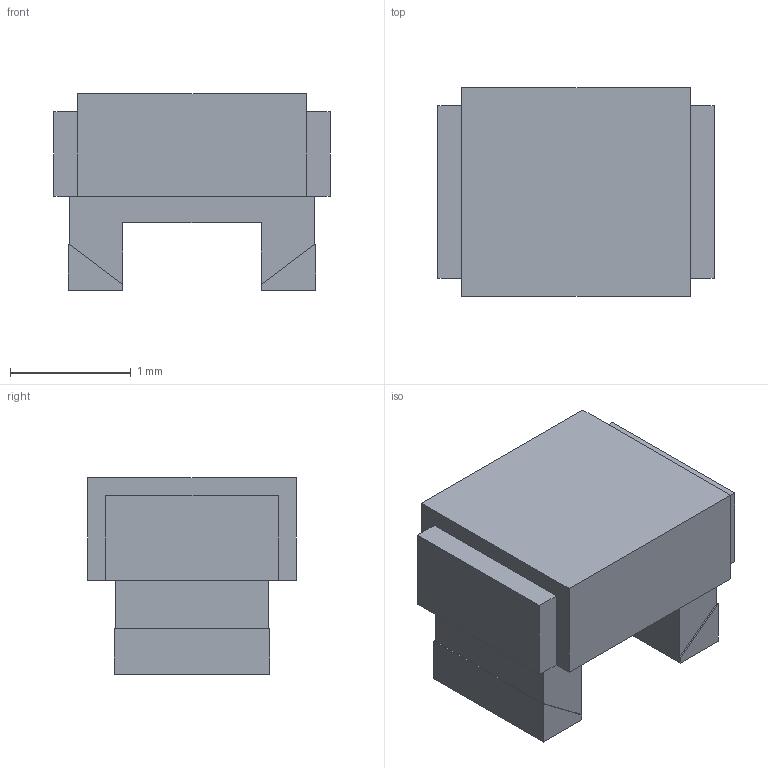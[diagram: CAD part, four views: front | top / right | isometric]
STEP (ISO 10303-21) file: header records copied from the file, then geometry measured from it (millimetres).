
FILE_DESCRIPTION(('STEP AP203'), '1');
FILE_NAME('KIK 2012 (0805) Îëîâî', '', ('UNSPECIFIED'), ('UNSPECIFIED'), 'ASCON STEP Converter 1.6', 'ASCON Math Kernel', '');
FILE_SCHEMA(('CONFIG_CONTROL_DESIGN'));
Length unit declared in the file: millimetre
Assembly tree (1 placements, depth 2):
  (unnamed)
    (unnamed)
Bounding box: 2.29 x 1.73 x 1.63 mm (x, y, z)
Volume: 4.4 mm3; surface area: 20 mm2
Topology: 1 solids, 2 shells, 54 faces, 143 edges, 94 vertices
Faces by surface type: plane 50, cylinder 4
Entity records: 2171 total; most frequent: CARTESIAN_POINT 293, ORIENTED_EDGE 286, DIRECTION 263, EDGE_CURVE 143, LINE 135, VECTOR 135, VERTEX_POINT 94, AXIS2_PLACEMENT_3D 64
